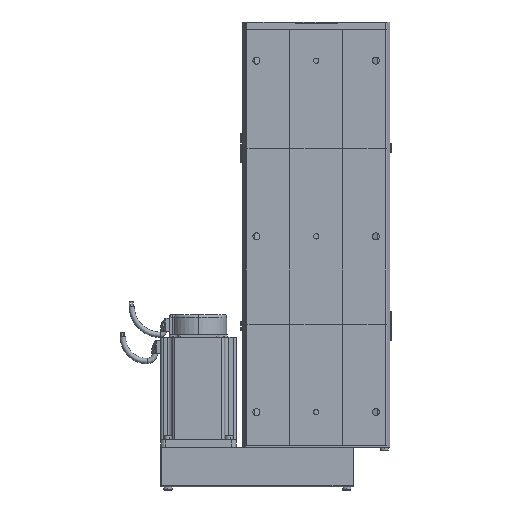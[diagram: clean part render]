
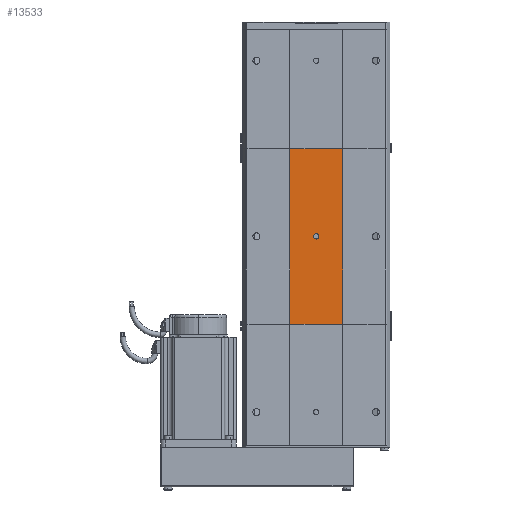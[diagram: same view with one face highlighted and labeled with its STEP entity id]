
A CAD part, front view. The second image highlights one B-rep face of the part: STEP entity #13533.
In plain terms, the highlighted planar face has unit normal (0, -1, 0).
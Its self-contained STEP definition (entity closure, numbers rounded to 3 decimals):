
#4821 = VERTEX_POINT ( 'NONE', #52111 ) ;
#4842 = ORIENTED_EDGE ( 'NONE', *, *, #32963, .T. ) ;
#4858 = ORIENTED_EDGE ( 'NONE', *, *, #4874, .F. ) ;
#4874 = EDGE_CURVE ( 'NONE', #4821, #30541, #52204, .T. ) ;
#4884 = ORIENTED_EDGE ( 'NONE', *, *, #64138, .F. ) ;
#5938 = EDGE_LOOP ( 'NONE', ( #36434, #8481, #4884, #4842 ) ) ;
#5946 = ORIENTED_EDGE ( 'NONE', *, *, #6694, .F. ) ;
#6694 = EDGE_CURVE ( 'NONE', #30541, #4821, #56035, .T. ) ;
#6717 = EDGE_LOOP ( 'NONE', ( #5946, #4858 ) ) ;
#7605 = VERTEX_POINT ( 'NONE', #57878 ) ;
#7625 = VERTEX_POINT ( 'NONE', #57915 ) ;
#8481 = ORIENTED_EDGE ( 'NONE', *, *, #13494, .F. ) ;
#9583 = DIRECTION ( 'NONE',  ( -1., 0., 0. ) ) ;
#9584 = VECTOR ( 'NONE', #9583, 1000. ) ;
#9585 = CARTESIAN_POINT ( 'NONE',  ( -30., -32.5, 0. ) ) ;
#9586 = LINE ( 'NONE', #9585, #9584 ) ;
#13494 = EDGE_CURVE ( 'NONE', #7605, #17587, #42527, .T. ) ;
#13533 = ADVANCED_FACE ( 'NONE', ( #42612, #42603 ), #42622, .F. ) ;
#17572 = VERTEX_POINT ( 'NONE', #35049 ) ;
#17587 = VERTEX_POINT ( 'NONE', #35095 ) ;
#17701 = EDGE_CURVE ( 'NONE', #17572, #17587, #35193, .T. ) ;
#30541 = VERTEX_POINT ( 'NONE', #65649 ) ;
#32963 = EDGE_CURVE ( 'NONE', #7625, #17572, #65777, .T. ) ;
#35049 = CARTESIAN_POINT ( 'NONE',  ( 30., -32.5, 200. ) ) ;
#35095 = CARTESIAN_POINT ( 'NONE',  ( -30., -32.5, 200. ) ) ;
#35178 = DIRECTION ( 'NONE',  ( -1., 0., 0. ) ) ;
#35179 = VECTOR ( 'NONE', #35178, 1000. ) ;
#35182 = CARTESIAN_POINT ( 'NONE',  ( -30., -32.5, 200. ) ) ;
#35193 = LINE ( 'NONE', #35182, #35179 ) ;
#36434 = ORIENTED_EDGE ( 'NONE', *, *, #17701, .T. ) ;
#42522 = DIRECTION ( 'NONE',  ( 0., 0., 1. ) ) ;
#42524 = VECTOR ( 'NONE', #42522, 1000. ) ;
#42526 = CARTESIAN_POINT ( 'NONE',  ( -30., -32.5, 0. ) ) ;
#42527 = LINE ( 'NONE', #42526, #42524 ) ;
#42600 = AXIS2_PLACEMENT_3D ( 'NONE', #42718, #42710, #42709 ) ;
#42603 = FACE_OUTER_BOUND ( 'NONE', #5938, .T. ) ;
#42612 = FACE_BOUND ( 'NONE', #6717, .T. ) ;
#42622 = PLANE ( 'NONE',  #42600 ) ;
#42709 = DIRECTION ( 'NONE',  ( 0., 0., 1. ) ) ;
#42710 = DIRECTION ( 'NONE',  ( 0., 1., 0. ) ) ;
#42718 = CARTESIAN_POINT ( 'NONE',  ( -30., -32.5, 0. ) ) ;
#52111 = CARTESIAN_POINT ( 'NONE',  ( 0., -32.5, 103. ) ) ;
#52200 = DIRECTION ( 'NONE',  ( 0., 0., -1. ) ) ;
#52201 = DIRECTION ( 'NONE',  ( 0., -1., 0. ) ) ;
#52202 = CARTESIAN_POINT ( 'NONE',  ( 0., -32.5, 100. ) ) ;
#52203 = AXIS2_PLACEMENT_3D ( 'NONE', #52202, #52201, #52200 ) ;
#52204 = CIRCLE ( 'NONE', #52203, 3. ) ;
#56029 = AXIS2_PLACEMENT_3D ( 'NONE', #56086, #56032, #56083 ) ;
#56032 = DIRECTION ( 'NONE',  ( 0., -1., 0. ) ) ;
#56035 = CIRCLE ( 'NONE', #56029, 3. ) ;
#56083 = DIRECTION ( 'NONE',  ( 0., 0., -1. ) ) ;
#56086 = CARTESIAN_POINT ( 'NONE',  ( 0., -32.5, 100. ) ) ;
#57878 = CARTESIAN_POINT ( 'NONE',  ( -30., -32.5, 0. ) ) ;
#57915 = CARTESIAN_POINT ( 'NONE',  ( 30., -32.5, 0. ) ) ;
#64138 = EDGE_CURVE ( 'NONE', #7625, #7605, #9586, .T. ) ;
#65649 = CARTESIAN_POINT ( 'NONE',  ( 0., -32.5, 97. ) ) ;
#65763 = VECTOR ( 'NONE', #65801, 1000. ) ;
#65776 = CARTESIAN_POINT ( 'NONE',  ( 30., -32.5, 0. ) ) ;
#65777 = LINE ( 'NONE', #65776, #65763 ) ;
#65801 = DIRECTION ( 'NONE',  ( 0., 0., 1. ) ) ;
